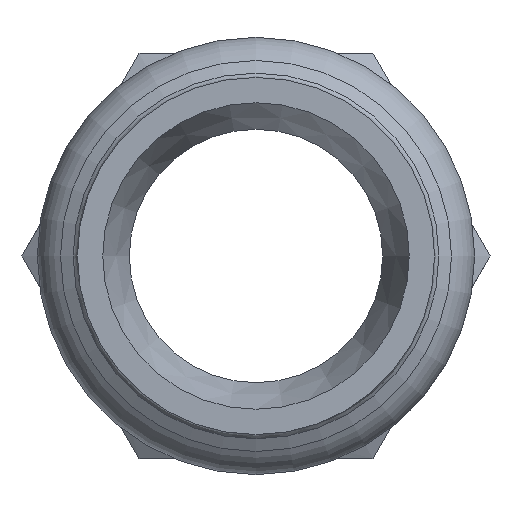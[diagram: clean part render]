
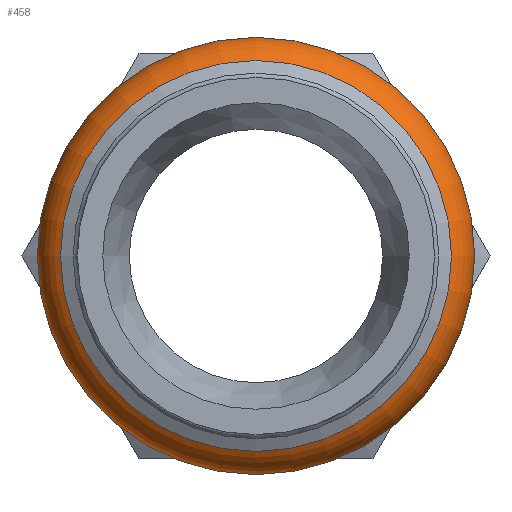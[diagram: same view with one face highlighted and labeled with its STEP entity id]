
A CAD part, left-side view. The second image highlights one B-rep face of the part: STEP entity #458.
In plain terms, the highlighted toroidal (fillet/blend) face has major radius 10.2 mm and minor radius 2.75 mm.
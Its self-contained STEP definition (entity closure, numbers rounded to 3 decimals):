
#160=CARTESIAN_POINT('',(-26.852,10.94,0.0));
#161=VERTEX_POINT('',#160);
#162=CARTESIAN_POINT('',(-26.852,0.,0.0));
#163=DIRECTION('',(1.0,0.0,0.0));
#164=DIRECTION('',(0.0,-1.0,0.0));
#165=AXIS2_PLACEMENT_3D('',#162,#163,#164);
#166=CIRCLE('',#165,10.94);
#167=EDGE_CURVE('',#161,#161,#166,.T.);
#304=CARTESIAN_POINT('',(-31.882,11.575,0.0));
#305=VERTEX_POINT('',#304);
#306=CARTESIAN_POINT('',(-31.882,0.,0.0));
#307=DIRECTION('',(1.0,0.0,0.0));
#308=DIRECTION('',(0.0,1.0,0.0));
#309=AXIS2_PLACEMENT_3D('',#306,#307,#308);
#310=CIRCLE('',#309,11.575);
#311=EDGE_CURVE('',#305,#305,#310,.T.);
#447=CARTESIAN_POINT('',(-29.5,0.,0.0));
#448=DIRECTION('',(1.0,0.,0.0));
#449=DIRECTION('',(0.0,0.0,-1.0));
#450=AXIS2_PLACEMENT_3D('',#447,#448,#449);
#451=TOROIDAL_SURFACE('',#450,10.2,2.75);
#452=ORIENTED_EDGE('',*,*,#311,.T.);
#453=EDGE_LOOP('',(#452));
#454=FACE_OUTER_BOUND('',#453,.T.);
#455=ORIENTED_EDGE('',*,*,#167,.F.);
#456=EDGE_LOOP('',(#455));
#457=FACE_BOUND('',#456,.T.);
#458=ADVANCED_FACE('',(#454,#457),#451,.T.);
